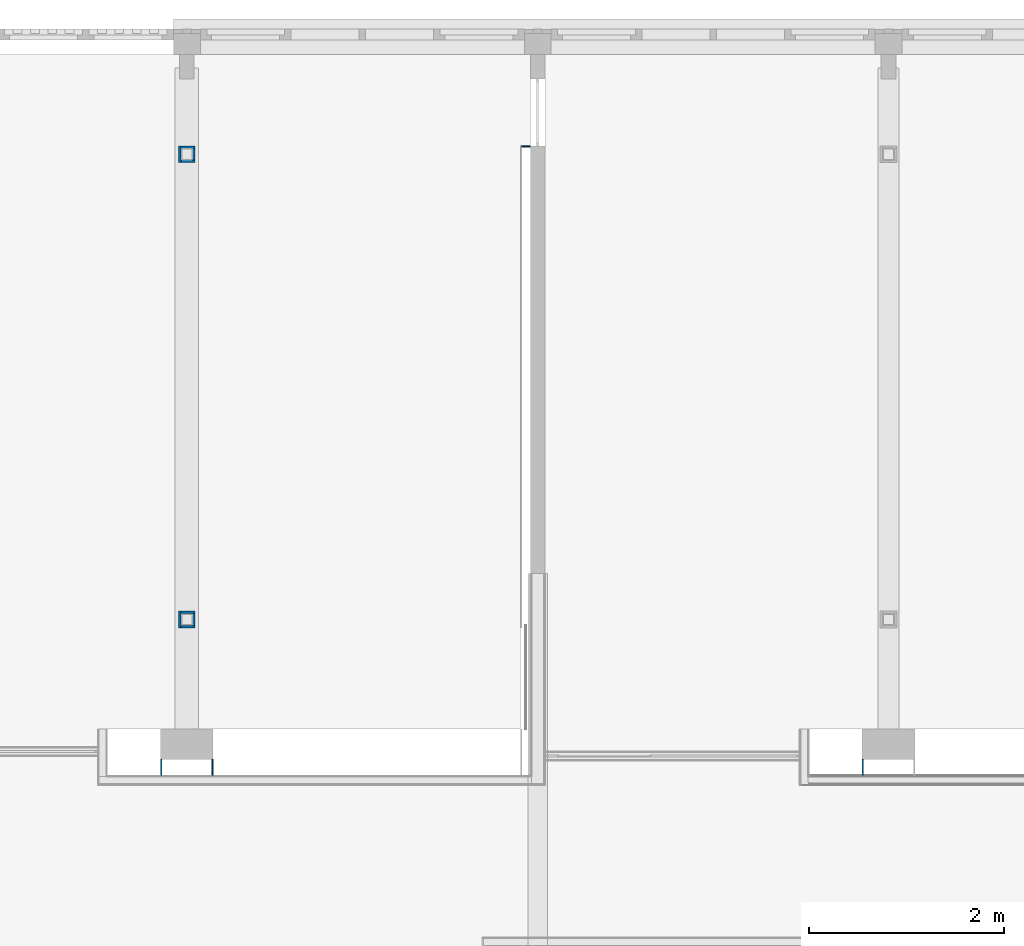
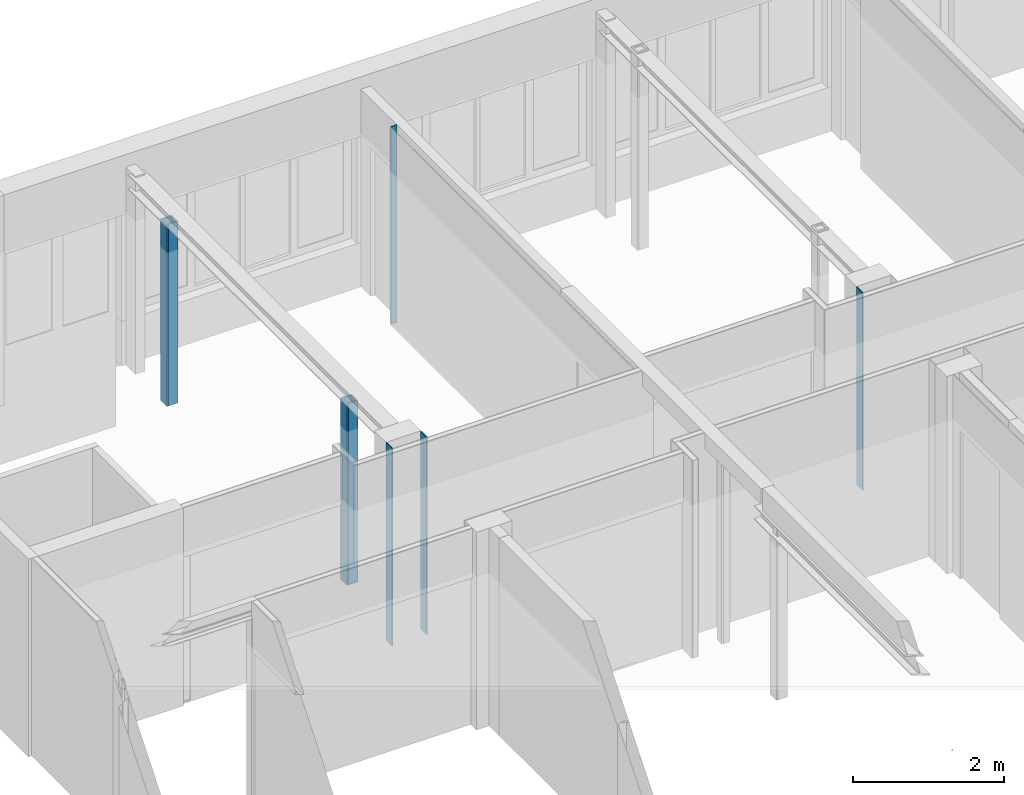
# One storey, part 49 of 99: 12 walls.
"""IFC2X3 building model written with IfcOpenShell, lengths in millimetres."""

from ifc_helpers import new_model, entity, si_unit, converted_unit, derived_unit, money_unit, direction, frame, origin_with_axes, place, context, subcontext, project, spatial, faceted_brep, material, type_object, element, save


model = new_model("IFC2X3")

# Units and contexts
model_context = context("Model", 3, precision=0.01, world=origin_with_axes(), true_north=direction((0.0, 1.0)))
body_context = subcontext(model_context, "Body", "Model", "MODEL_VIEW")
ifc_project = project(units=[si_unit("LENGTHUNIT", "METRE", prefix="MILLI"), si_unit("AREAUNIT", "SQUARE_METRE"), si_unit("VOLUMEUNIT", "CUBIC_METRE"), converted_unit("PLANEANGLEUNIT", "DEGREE", entity("IfcPlaneAngleMeasure", 0.0174532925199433), si_unit("PLANEANGLEUNIT", "RADIAN"), dimensions=[0, 0, 0, 0, 0, 0, 0]), money_unit("EUR"), converted_unit("TIMEUNIT", "Year", entity("IfcTimeMeasure", 31557600.0), si_unit("TIMEUNIT", "SECOND"), dimensions=[0, 0, 1, 0, 0, 0, 0]), si_unit("MASSUNIT", "GRAM", prefix="KILO"), si_unit("THERMODYNAMICTEMPERATUREUNIT", "DEGREE_CELSIUS"), si_unit("LUMINOUSINTENSITYUNIT", "LUMEN"), si_unit("ENERGYUNIT", "JOULE", prefix="MEGA"), derived_unit("THERMALCONDUCTANCEUNIT", [(si_unit("POWERUNIT", "WATT"), 1), (si_unit("LENGTHUNIT", "METRE"), -1), (si_unit("THERMODYNAMICTEMPERATUREUNIT", "KELVIN"), -1)]), derived_unit("SPECIFICHEATCAPACITYUNIT", [(si_unit("ENERGYUNIT", "JOULE"), 1), (si_unit("MASSUNIT", "GRAM", prefix="KILO"), -1), (si_unit("THERMODYNAMICTEMPERATUREUNIT", "KELVIN"), -1)]), derived_unit("MASSDENSITYUNIT", [(si_unit("MASSUNIT", "GRAM", prefix="KILO"), 1), (si_unit("VOLUMEUNIT", "CUBIC_METRE"), -1)])], contexts=[model_context])

# Site, building, storey
site_placement = place(None, origin_with_axes())
site = spatial("IfcSite", under=ifc_project, at=site_placement, Name="Site", CompositionType="ELEMENT")
building_placement = place(site_placement, origin_with_axes())
building = spatial("IfcBuilding", under=site, at=building_placement, Name="Naam gebouw", CompositionType="ELEMENT")
storey_placement = place(building_placement, frame((0.0, 0.0, 7650.0), z_axis=(0.0, 0.0, 1.0), x_axis=(1.0, 0.0, 0.0)))
storey = spatial("IfcBuildingStorey", under=building, at=storey_placement, Name="2e verdieping N", CompositionType="ELEMENT", Elevation=7650.0)

# Walls
ifc_material = material(Name="Gipsplaat")
wall_type_1 = type_object("IfcWallType", Name="Metalstud 100 enkel 100", PredefinedType="NOTDEFINED")
wall_1_placement = place(storey_placement, frame((36270.0, 20105.91242510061, 0.0), z_axis=(0.0, 0.0, 1.0), x_axis=(0.0, 1.0, 0.0)))
element("IfcWall", 1, at=wall_1_placement, inside=storey, type_object=wall_type_1, material=ifc_material, Name="_Wand-x", context=body_context, shape_type="Brep", body=[
    faceted_brep([(164.9999999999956, 0.0, 0.0), (164.9999999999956, 12.50000000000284, 0.0), (164.9999999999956, 12.50000000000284, 3199.999999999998), (164.9999999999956, 0.0, 3199.999999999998), (0.0, 12.50000000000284, 0.0), (0.0, 0.0, 0.0), (0.0, 12.50000000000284, 3199.999999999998), (0.0, 0.0, 3199.999999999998)], [[[0, 1, 2, 3]], [[4, 1, 0, 5]], [[1, 4, 6, 2]], [[2, 6, 7, 3]], [[5, 0, 3, 7]], [[4, 5, 7, 6]]]),
])
for number, where, z_axis, x_axis, name in (
    (2, (35730.0, 20105.91242510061, 0.0), (0.0, 0.0, 1.0), (0.0, 1.0, 0.0), "_Wand-x"),
    (3, (42929.99999999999, 20105.91242510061, 0.0), (0.0, 0.0, 1.0), (0.0, 1.0, 0.0), "_Wand-x"),
):
    element("IfcWall", number, at=place(storey_placement, frame(where, z_axis=z_axis, x_axis=x_axis)), inside=storey, type_object=wall_type_1, material=ifc_material, Name=name, context=body_context, shape_type="Brep", body=[
        faceted_brep([(164.9999999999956, -12.50000000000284, 0.0), (164.9999999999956, 0.0, 0.0), (164.9999999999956, 0.0, 3199.999999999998), (164.9999999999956, -12.50000000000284, 3199.999999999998), (0.0, 0.0, 0.0), (0.0, -12.50000000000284, 0.0), (0.0, 0.0, 3199.999999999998), (0.0, -12.49999999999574, 3199.999999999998)], [[[0, 1, 2, 3]], [[4, 1, 0, 5]], [[1, 4, 6, 2]], [[2, 6, 7, 3]], [[5, 0, 3, 7]], [[4, 5, 7, 6]]]),
    ])
wall_2_placement = place(storey_placement, frame((39525.0, 26565.9124251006, 0.0), z_axis=(0.0, 0.0, 1.0), x_axis=(-1.0, 0.0, 0.0)))
element("IfcWall", 4, at=wall_2_placement, inside=storey, type_object=wall_type_1, material=ifc_material, Name="_Wand-x", context=body_context, shape_type="Brep", body=[
    faceted_brep([(87.49999999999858, 12.49999999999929, 0.0), (87.49999999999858, 0.0, 0.0), (0.0, 0.0, 0.0), (0.0, 12.49999999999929, 0.0), (87.49999999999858, 12.49999999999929, 3199.999999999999), (87.49999999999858, 0.0, 3199.999999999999), (0.0, 0.0, 3199.999999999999), (0.0, 12.49999999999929, 3199.999999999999)], [[[0, 1, 2, 3]], [[1, 0, 4, 5]], [[1, 5, 6, 2]], [[7, 3, 2, 6]], [[4, 0, 3, 7]], [[5, 4, 7, 6]]]),
])
wall_type_2 = type_object("IfcWallType", Name="Gipsplaat 25", PredefinedType="NOTDEFINED")
wall_3_placement = place(storey_placement, frame((35914.99999999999, 21620.91242510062, 0.0), z_axis=(0.0, 0.0, 1.0), x_axis=(0.0, 1.0, 0.0)))
element("IfcWall", 5, at=wall_3_placement, inside=storey, type_object=wall_type_2, material=ifc_material, Name="_Wand-x", context=body_context, shape_type="Brep", body=[
    faceted_brep([(169.999999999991, -24.99999999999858, 2939.999999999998), (169.999999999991, 0.0, 2939.999999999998), (0.0, 0.0, 2939.999999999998), (0.0, -24.99999999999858, 2939.999999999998), (169.999999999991, -24.99999999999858, 0.0), (169.999999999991, 0.0, 0.0), (0.0, 0.0, 0.0), (0.0, -24.99999999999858, 0.0)], [[[0, 1, 2, 3]], [[1, 0, 4, 5]], [[1, 5, 6, 2]], [[7, 3, 2, 6]], [[4, 0, 3, 7]], [[5, 4, 7, 6]]]),
])
wall_4_placement = place(storey_placement, frame((35914.99999999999, 21620.91242510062, 0.0), z_axis=(0.0, 0.0, 1.0), x_axis=(1.0, 0.0, 0.0)))
element("IfcWall", 6, at=wall_4_placement, inside=storey, type_object=wall_type_2, material=ifc_material, Name="_Wand-x", context=body_context, shape_type="Brep", body=[
    faceted_brep([(170.0000000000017, 25.00000000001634, 0.0), (169.9999999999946, 0.0, 0.0), (24.99999999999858, 0.0, 0.0), (24.99999999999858, 25.00000000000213, 0.0), (170.0000000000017, 25.00000000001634, 2939.999999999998), (169.9999999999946, 0.0, 2939.999999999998), (24.99999999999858, 0.0, 2939.999999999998), (24.99999999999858, 25.00000000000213, 2939.999999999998)], [[[0, 1, 2, 3]], [[1, 0, 4, 5]], [[1, 5, 6, 2]], [[7, 3, 2, 6]], [[4, 0, 3, 7]], [[5, 4, 7, 6]]]),
])
wall_5_placement = place(storey_placement, frame((36084.99999999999, 21620.9124251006, 0.0), z_axis=(0.0, 0.0, 1.0), x_axis=(0.0, 1.0, 0.0)))
element("IfcWall", 7, at=wall_5_placement, inside=storey, type_object=wall_type_2, material=ifc_material, Name="_Wand-x", context=body_context, shape_type="Brep", body=[
    faceted_brep([(145.0000000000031, 25.00000000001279, 0.0), (145.0000000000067, 0.0, 0.0), (24.99999999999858, 0.0, 0.0), (24.99999999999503, 25.00000000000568, 0.0), (145.0000000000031, 25.00000000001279, 2939.999999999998), (145.0000000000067, 0.0, 2939.999999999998), (24.99999999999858, 0.0, 2939.999999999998), (24.99999999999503, 25.00000000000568, 2939.999999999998)], [[[0, 1, 2, 3]], [[1, 0, 4, 5]], [[1, 5, 6, 2]], [[7, 3, 2, 6]], [[4, 0, 3, 7]], [[5, 4, 7, 6]]]),
])
wall_6_placement = place(storey_placement, frame((35914.99999999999, 21790.91242510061, 0.0), z_axis=(0.0, 0.0, 1.0), x_axis=(1.0, 0.0, 0.0)))
element("IfcWall", 8, at=wall_6_placement, inside=storey, type_object=wall_type_2, material=ifc_material, Name="_Wand-x", context=body_context, shape_type="Brep", body=[
    faceted_brep([(170.0000000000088, -24.99999999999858, 2939.999999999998), (170.0000000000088, 0.0, 2939.999999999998), (24.99999999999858, 0.0, 2939.999999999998), (24.99999999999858, -24.99999999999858, 2939.999999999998), (170.0000000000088, -24.99999999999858, 0.0), (170.0000000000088, 0.0, 0.0), (24.99999999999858, 0.0, 0.0), (24.99999999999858, -24.99999999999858, 0.0)], [[[0, 1, 2, 3]], [[1, 0, 4, 5]], [[1, 5, 6, 2]], [[7, 3, 2, 6]], [[4, 0, 3, 7]], [[5, 4, 7, 6]]]),
])
wall_7_placement = place(storey_placement, frame((36084.99999999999, 26395.9124251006, 0.0), z_axis=(0.0, 0.0, 1.0), x_axis=(0.0, 1.0, 0.0)))
element("IfcWall", 9, at=wall_7_placement, inside=storey, type_object=wall_type_2, material=ifc_material, Name="_Wand-x", context=body_context, shape_type="Brep", body=[
    faceted_brep([(145.0000000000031, 25.00000000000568, 0.0), (145.0000000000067, 0.0, 0.0), (24.99999999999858, 0.0, 0.0), (24.99999999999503, 24.99999999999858, 0.0), (145.0000000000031, 25.00000000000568, 2939.999999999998), (145.0000000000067, 0.0, 2939.999999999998), (24.99999999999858, 0.0, 2939.999999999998), (24.99999999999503, 24.99999999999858, 2939.999999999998)], [[[0, 1, 2, 3]], [[1, 0, 4, 5]], [[1, 5, 6, 2]], [[7, 3, 2, 6]], [[4, 0, 3, 7]], [[5, 4, 7, 6]]]),
])
wall_8_placement = place(storey_placement, frame((35914.99999999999, 26395.91242510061, 0.0), z_axis=(0.0, 0.0, 1.0), x_axis=(0.0, 1.0, 0.0)))
element("IfcWall", 10, at=wall_8_placement, inside=storey, type_object=wall_type_2, material=ifc_material, Name="_Wand-x", context=body_context, shape_type="Brep", body=[
    faceted_brep([(169.999999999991, -24.99999999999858, 2939.999999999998), (169.999999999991, 0.0, 2939.999999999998), (0.0, 0.0, 2939.999999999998), (0.0, -24.99999999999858, 2939.999999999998), (169.999999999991, -24.99999999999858, 0.0), (169.999999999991, 0.0, 0.0), (0.0, 0.0, 0.0), (0.0, -24.99999999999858, 0.0)], [[[0, 1, 2, 3]], [[1, 0, 4, 5]], [[1, 5, 6, 2]], [[7, 3, 2, 6]], [[4, 0, 3, 7]], [[5, 4, 7, 6]]]),
])
wall_9_placement = place(storey_placement, frame((35914.99999999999, 26395.91242510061, 0.0), z_axis=(0.0, 0.0, 1.0), x_axis=(1.0, 0.0, 0.0)))
element("IfcWall", 11, at=wall_9_placement, inside=storey, type_object=wall_type_2, material=ifc_material, Name="_Wand-x", context=body_context, shape_type="Brep", body=[
    faceted_brep([(169.9999999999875, 25.00000000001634, 0.0), (169.9999999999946, 0.0, 0.0), (24.99999999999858, 0.0, 0.0), (24.99999999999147, 25.00000000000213, 0.0), (169.9999999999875, 25.00000000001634, 2939.999999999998), (169.9999999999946, 0.0, 2939.999999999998), (24.99999999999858, 0.0, 2939.999999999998), (24.99999999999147, 25.00000000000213, 2939.999999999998)], [[[0, 1, 2, 3]], [[1, 0, 4, 5]], [[1, 5, 6, 2]], [[7, 3, 2, 6]], [[4, 0, 3, 7]], [[5, 4, 7, 6]]]),
])
wall_10_placement = place(storey_placement, frame((35914.99999999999, 26565.9124251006, 0.0), z_axis=(0.0, 0.0, 1.0), x_axis=(1.0, 0.0, 0.0)))
element("IfcWall", 12, at=wall_10_placement, inside=storey, type_object=wall_type_2, material=ifc_material, Name="_Wand-x", context=body_context, shape_type="Brep", body=[
    faceted_brep([(170.0000000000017, -24.99999999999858, 2939.999999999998), (170.0000000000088, 0.0, 2939.999999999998), (24.99999999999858, 0.0, 2939.999999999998), (24.99999999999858, -24.99999999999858, 2939.999999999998), (170.0000000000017, -24.99999999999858, 0.0), (170.0000000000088, 0.0, 0.0), (24.99999999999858, 0.0, 0.0), (24.99999999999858, -24.99999999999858, 0.0)], [[[0, 1, 2, 3]], [[1, 0, 4, 5]], [[1, 5, 6, 2]], [[7, 3, 2, 6]], [[4, 0, 3, 7]], [[5, 4, 7, 6]]]),
])

save(model, "model.ifc")
